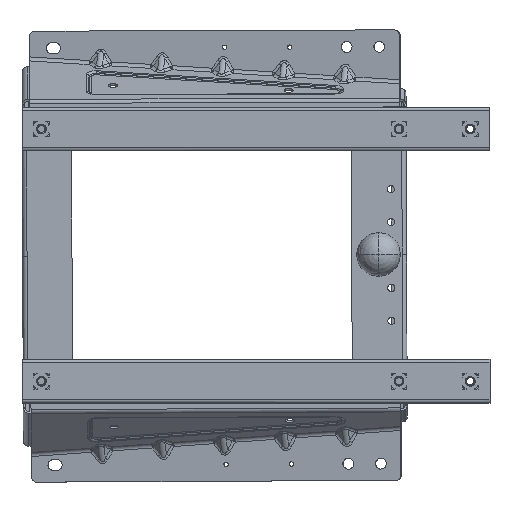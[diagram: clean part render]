
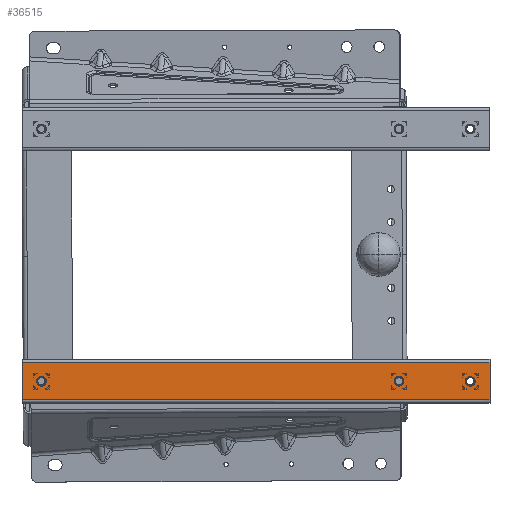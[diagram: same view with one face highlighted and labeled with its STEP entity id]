
A CAD part, top view. The second image highlights one B-rep face of the part: STEP entity #36515.
In plain terms, the highlighted planar face has unit normal (0, 0, 1).
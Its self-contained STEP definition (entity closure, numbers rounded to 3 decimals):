
#36430=AXIS2_PLACEMENT_3D('Circle Axis2P3D',#36428,#36429,$) ;
#36457=AXIS2_PLACEMENT_3D('Plane Axis2P3D',#36454,#36455,#36456) ;
#36472=AXIS2_PLACEMENT_3D('Circle Axis2P3D',#36470,#36471,$) ;
#36481=AXIS2_PLACEMENT_3D('Circle Axis2P3D',#36479,#36480,$) ;
#36490=AXIS2_PLACEMENT_3D('Circle Axis2P3D',#36488,#36489,$) ;
#36499=AXIS2_PLACEMENT_3D('Circle Axis2P3D',#36497,#36498,$) ;
#36508=AXIS2_PLACEMENT_3D('Circle Axis2P3D',#36506,#36507,$) ;
#35810=CARTESIAN_POINT('Vertex',(-534.427,-632.055,362.691)) ;
#35813=CARTESIAN_POINT('Line Origine',(-534.427,-615.055,362.691)) ;
#35817=CARTESIAN_POINT('Vertex',(-534.427,-598.055,362.691)) ;
#36046=CARTESIAN_POINT('Vertex',(-108.427,-632.055,362.691)) ;
#36049=CARTESIAN_POINT('Line Origine',(-319.927,-632.055,362.691)) ;
#36091=CARTESIAN_POINT('Vertex',(-108.427,-598.055,362.691)) ;
#36094=CARTESIAN_POINT('Line Origine',(-108.427,-615.055,362.691)) ;
#36428=CARTESIAN_POINT('Axis2P3D Location',(-517.427,-615.056,362.691)) ;
#36432=CARTESIAN_POINT('Vertex',(-521.927,-615.056,362.691)) ;
#36434=CARTESIAN_POINT('Vertex',(-512.927,-615.056,362.691)) ;
#36454=CARTESIAN_POINT('Axis2P3D Location',(0.,0.,362.691)) ;
#36459=CARTESIAN_POINT('Line Origine',(-321.427,-598.055,362.691)) ;
#36470=CARTESIAN_POINT('Axis2P3D Location',(-191.427,-614.996,362.691)) ;
#36474=CARTESIAN_POINT('Vertex',(-195.927,-614.996,362.691)) ;
#36476=CARTESIAN_POINT('Vertex',(-186.927,-614.996,362.691)) ;
#36479=CARTESIAN_POINT('Axis2P3D Location',(-191.427,-614.996,362.691)) ;
#36488=CARTESIAN_POINT('Axis2P3D Location',(-126.427,-615.055,362.691)) ;
#36492=CARTESIAN_POINT('Vertex',(-121.927,-615.055,362.691)) ;
#36494=CARTESIAN_POINT('Vertex',(-130.927,-615.055,362.691)) ;
#36497=CARTESIAN_POINT('Axis2P3D Location',(-126.427,-615.055,362.691)) ;
#36506=CARTESIAN_POINT('Axis2P3D Location',(-517.427,-615.056,362.691)) ;
#35814=DIRECTION('Vector Direction',(0.,1.,0.)) ;
#36050=DIRECTION('Vector Direction',(1.,0.,0.)) ;
#36095=DIRECTION('Vector Direction',(0.,-1.,0.)) ;
#36429=DIRECTION('Axis2P3D Direction',(0.,0.,-1.)) ;
#36455=DIRECTION('Axis2P3D Direction',(0.,0.,1.)) ;
#36456=DIRECTION('Axis2P3D XDirection',(1.,0.,0.)) ;
#36460=DIRECTION('Vector Direction',(1.,0.,0.)) ;
#36471=DIRECTION('Axis2P3D Direction',(0.,0.,1.)) ;
#36480=DIRECTION('Axis2P3D Direction',(0.,0.,1.)) ;
#36489=DIRECTION('Axis2P3D Direction',(0.,0.,1.)) ;
#36498=DIRECTION('Axis2P3D Direction',(0.,0.,1.)) ;
#36507=DIRECTION('Axis2P3D Direction',(0.,0.,1.)) ;
#35815=VECTOR('Line Direction',#35814,1.) ;
#36051=VECTOR('Line Direction',#36050,1.) ;
#36096=VECTOR('Line Direction',#36095,1.) ;
#36461=VECTOR('Line Direction',#36460,1.) ;
#36465=ORIENTED_EDGE('',*,*,#35819,.T.) ;
#36466=ORIENTED_EDGE('',*,*,#36053,.T.) ;
#36467=ORIENTED_EDGE('',*,*,#36098,.T.) ;
#36468=ORIENTED_EDGE('',*,*,#36463,.F.) ;
#36485=ORIENTED_EDGE('',*,*,#36478,.F.) ;
#36486=ORIENTED_EDGE('',*,*,#36483,.F.) ;
#36503=ORIENTED_EDGE('',*,*,#36496,.F.) ;
#36504=ORIENTED_EDGE('',*,*,#36501,.F.) ;
#36512=ORIENTED_EDGE('',*,*,#36510,.F.) ;
#36513=ORIENTED_EDGE('',*,*,#36436,.F.) ;
#36487=FACE_BOUND('',#36484,.T.) ;
#36505=FACE_BOUND('',#36502,.T.) ;
#36514=FACE_BOUND('',#36511,.T.) ;
#36515=ADVANCED_FACE('\X2\96F64EF651E04F554F53\X0\',(#36469,#36487,#36505,#36514),#36458,.T.) ;
#36431=CIRCLE('generated circle',#36430,4.5) ;
#36473=CIRCLE('generated circle',#36472,4.5) ;
#36482=CIRCLE('generated circle',#36481,4.5) ;
#36491=CIRCLE('generated circle',#36490,4.5) ;
#36500=CIRCLE('generated circle',#36499,4.5) ;
#36509=CIRCLE('generated circle',#36508,4.5) ;
#35819=EDGE_CURVE('',#35818,#35811,#35816,.F.) ;
#36053=EDGE_CURVE('',#35811,#36047,#36052,.T.) ;
#36098=EDGE_CURVE('',#36047,#36092,#36097,.F.) ;
#36436=EDGE_CURVE('',#36433,#36435,#36431,.F.) ;
#36463=EDGE_CURVE('',#35818,#36092,#36462,.T.) ;
#36478=EDGE_CURVE('',#36475,#36477,#36473,.T.) ;
#36483=EDGE_CURVE('',#36477,#36475,#36482,.T.) ;
#36496=EDGE_CURVE('',#36493,#36495,#36491,.T.) ;
#36501=EDGE_CURVE('',#36495,#36493,#36500,.T.) ;
#36510=EDGE_CURVE('',#36435,#36433,#36509,.T.) ;
#36464=EDGE_LOOP('',(#36465,#36466,#36467,#36468)) ;
#36484=EDGE_LOOP('',(#36485,#36486)) ;
#36502=EDGE_LOOP('',(#36503,#36504)) ;
#36511=EDGE_LOOP('',(#36512,#36513)) ;
#36469=FACE_OUTER_BOUND('',#36464,.T.) ;
#35816=LINE('Line',#35813,#35815) ;
#36052=LINE('Line',#36049,#36051) ;
#36097=LINE('Line',#36094,#36096) ;
#36462=LINE('Line',#36459,#36461) ;
#36458=PLANE('Plane',#36457) ;
#35811=VERTEX_POINT('',#35810) ;
#35818=VERTEX_POINT('',#35817) ;
#36047=VERTEX_POINT('',#36046) ;
#36092=VERTEX_POINT('',#36091) ;
#36433=VERTEX_POINT('',#36432) ;
#36435=VERTEX_POINT('',#36434) ;
#36475=VERTEX_POINT('',#36474) ;
#36477=VERTEX_POINT('',#36476) ;
#36493=VERTEX_POINT('',#36492) ;
#36495=VERTEX_POINT('',#36494) ;
